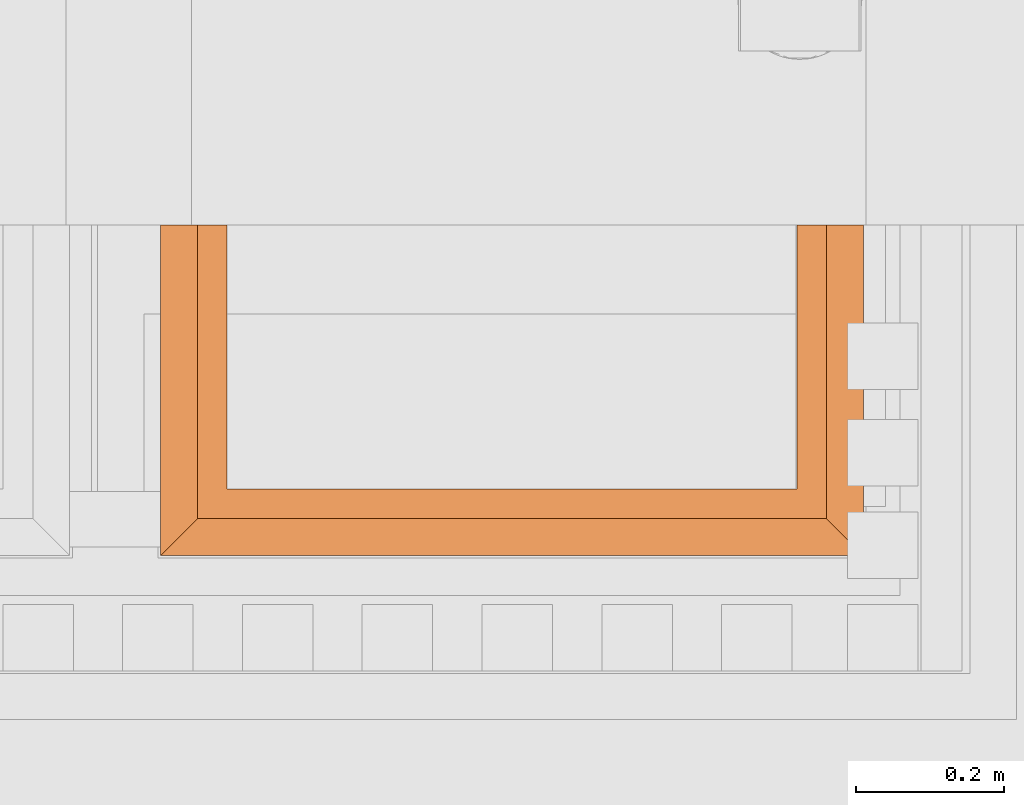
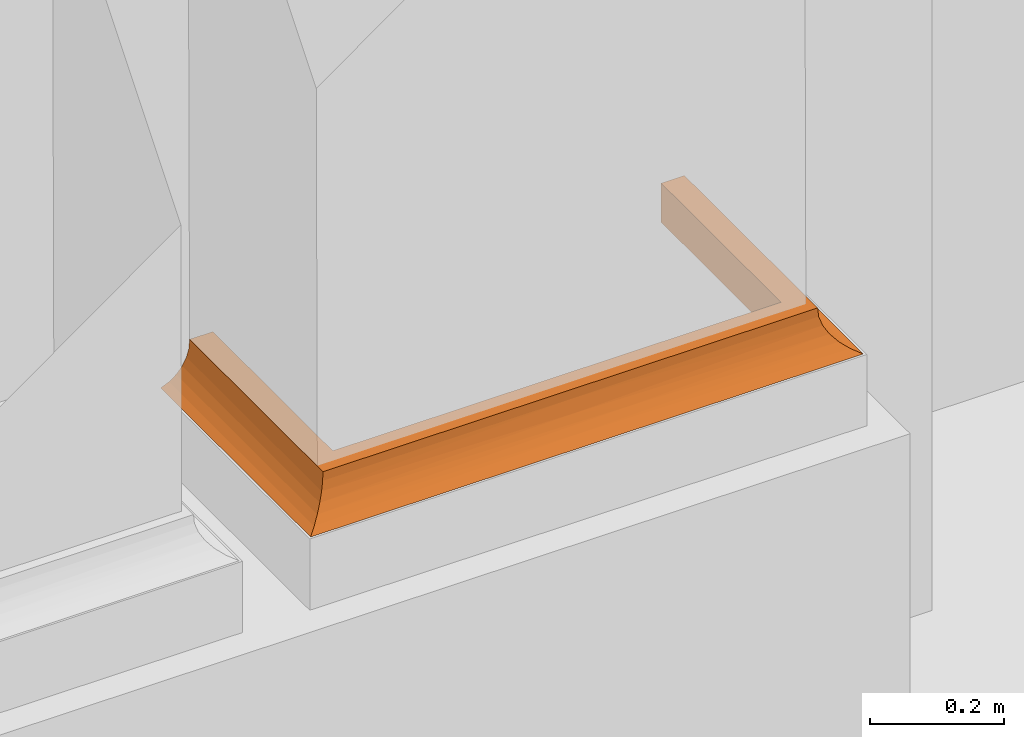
# One storey, part 35 of 44: 1 proxy.
"""IFC2X3 building model written with IfcOpenShell, lengths in metres."""

import ifcopenshell
import ifcopenshell.guid

model = None  # the IFC model being written
_history = None  # IfcOwnerHistory: only IFC2X3 demands one
_inside = {}  # id of a spatial element -> (the spatial element, [elements in it])
_under = {}  # id of a project, library or spatial element -> (it, [spatial elements below it])
_declared = {}  # id of a project -> (the project, [libraries it declares])
_typed = {}  # id of a type object -> (the type object, [elements of that type])
_made_of = {}  # id of a material, layer set ... -> (it, [elements and type objects made of it])


def new_model(schema):
    """Start an empty IFC model of exactly this schema.

    Asked for "IFC4X3", IfcOpenShell would pick the latest addendum, in which some entities
    have other attributes; the version numbers below select the first issue.
    IFC2X3 requires an IfcOwnerHistory on every rooted entity: one is made here for all.
    """
    global model, _history
    if schema == "IFC4X3":
        model = ifcopenshell.file(schema_version=(4, 3, 0, 0))
    else:
        model = ifcopenshell.file(schema=schema)
    _inside.clear()
    _under.clear()
    _declared.clear()
    _typed.clear()
    _made_of.clear()
    _history = None
    if model.schema == "IFC2X3":
        org = make("IfcOrganization", Name="unknown")
        user = make(
            "IfcPersonAndOrganization",
            ThePerson=make("IfcPerson", FamilyName="unknown"),
            TheOrganization=org,
        )
        app = make(
            "IfcApplication",
            ApplicationDeveloper=org,
            Version="unknown",
            ApplicationFullName="unknown",
            ApplicationIdentifier="unknown",
        )
        _history = make(
            "IfcOwnerHistory",
            OwningUser=user,
            OwningApplication=app,
            ChangeAction="ADDED",
            CreationDate=0,
        )
    return model


def make(cls, **values):
    """One entity of the class cls with the attributes given. An attribute that is None is left unset."""
    return model.create_entity(
        cls, **{name: value for name, value in values.items() if value is not None}
    )


def entity(cls, *values):
    """Any entity or typed value of the class cls, its attributes in the order of the schema. None: left unset."""
    e = model.create_entity(cls)
    for i, value in enumerate(values):
        if value is not None:
            e[i] = value
    return e


def rooted(cls, **values):
    """An entity with a GlobalId (a new one), such as an element, a storey or a relation."""
    return make(cls, GlobalId=ifcopenshell.guid.new(), OwnerHistory=_history, **values)


def si_unit(unit_type, name, prefix=None):
    """IfcSIUnit, for example si_unit("LENGTHUNIT", "METRE", prefix="MILLI")."""
    return make("IfcSIUnit", UnitType=unit_type, Prefix=prefix, Name=name)


def converted_unit(unit_type, name, factor, base, dimensions=None, offset=None):
    """IfcConversionBasedUnit, such as the inch: factor (a typed value) times the base unit."""
    return make(
        "IfcConversionBasedUnit"
        if offset is None
        else "IfcConversionBasedUnitWithOffset",
        ConversionOffset=offset,
        Dimensions=None
        if dimensions is None
        else entity("IfcDimensionalExponents", *dimensions),
        UnitType=unit_type,
        Name=name,
        ConversionFactor=make(
            "IfcMeasureWithUnit", ValueComponent=factor, UnitComponent=base
        ),
    )


def derived_unit(unit_type, elements):
    """IfcDerivedUnit: a product of units, each with its exponent."""
    return make(
        "IfcDerivedUnit",
        Elements=[
            make("IfcDerivedUnitElement", Unit=unit, Exponent=power)
            for unit, power in elements
        ],
        UnitType=unit_type,
    )


def assignment(units):
    """IfcUnitAssignment: the units of a project."""
    return None if units is None else make("IfcUnitAssignment", Units=units)


def point(xyz):
    """IfcCartesianPoint."""
    return None if xyz is None else make("IfcCartesianPoint", Coordinates=xyz)


def direction(xyz):
    """IfcDirection."""
    return None if xyz is None else make("IfcDirection", DirectionRatios=xyz)


def frame(location, z_axis=None, x_axis=None):
    """IfcAxis2Placement3D, a coordinate frame: its origin and axes. An axis left out is left unset."""
    return make(
        "IfcAxis2Placement3D",
        Location=point(location),
        Axis=direction(z_axis),
        RefDirection=direction(x_axis),
    )


def origin():
    """The frame at (0, 0, 0) with its axes left unset."""
    return frame((0.0, 0.0, 0.0))


def place(relative_to, where):
    """IfcLocalPlacement: puts the frame where relative to a parent placement (None: the world)."""
    return make(
        "IfcLocalPlacement", PlacementRelTo=relative_to, RelativePlacement=where
    )


def context(
    kind, dimensions, precision=None, world=None, true_north=None, identifier=None
):
    """IfcGeometricRepresentationContext, for example the 3D "Model" context."""
    return make(
        "IfcGeometricRepresentationContext",
        ContextIdentifier=identifier,
        ContextType=kind,
        CoordinateSpaceDimension=dimensions,
        Precision=precision,
        WorldCoordinateSystem=world,
        TrueNorth=true_north,
    )


def subcontext(parent, identifier, kind, view, scale=None):
    """IfcGeometricRepresentationSubContext, for example "Body" below "Model"."""
    return make(
        "IfcGeometricRepresentationSubContext",
        ContextIdentifier=identifier,
        ContextType=kind,
        ParentContext=parent,
        TargetScale=scale,
        TargetView=view,
    )


def project(units=None, contexts=None):
    """IfcProject with its units and contexts."""
    return rooted(
        "IfcProject",
        Name="project",
        RepresentationContexts=contexts,
        UnitsInContext=assignment(units),
    )


def spatial(cls, under=None, at=None, **own):
    """A site, building, storey or space (cls), placed at a placement, below another one or the project."""
    s = rooted(cls, ObjectPlacement=at, **own)
    if under is not None:
        _under.setdefault(under.id(), (under, []))[1].append(s)
    return s


def faces_of(points, faces, orient=None, outer=None):
    """IfcFace entities. A face is a list of loops; a loop is a list of indices into points, from 0.

    orient and outer hold one flag for each loop. By default every Orientation is true, the
    first loop of a face is its IfcFaceOuterBound and the others are IfcFaceBound.
    """
    made = []
    for i, loops in enumerate(faces):
        bounds = []
        for j, loop in enumerate(loops):
            is_outer = j == 0 if outer is None else outer[i][j]
            bounds.append(
                make(
                    "IfcFaceOuterBound" if is_outer else "IfcFaceBound",
                    Bound=make("IfcPolyLoop", Polygon=[points[k] for k in loop]),
                    Orientation=True if orient is None else orient[i][j],
                )
            )
        made.append(make("IfcFace", Bounds=bounds))
    return made


def faceted_brep(points, faces, orient=None, outer=None, voids=None):
    """IfcFacetedBrep: a solid bounded by flat faces; with voids (closed shells), ...WithVoids."""
    shared = [point(p) for p in points]
    hull = make("IfcClosedShell", CfsFaces=faces_of(shared, faces, orient, outer))
    if voids is None:
        return make("IfcFacetedBrep", Outer=hull)
    return make(
        "IfcFacetedBrepWithVoids",
        Outer=hull,
        Voids=[
            make(cls, CfsFaces=faces_of(shared, fs, o, b)) for cls, fs, o, b in voids
        ],
    )


def shape(context_of_items, identifier, shape_type, items):
    """IfcShapeRepresentation: the items that make up one representation, for example the "Body"."""
    return make(
        "IfcShapeRepresentation",
        ContextOfItems=context_of_items,
        RepresentationIdentifier=identifier,
        RepresentationType=shape_type,
        Items=items,
    )


def made_of(thing, what):
    """Note that an element or type object is made of a material, layer set ...; save() writes the relation."""
    if what is not None:
        _made_of.setdefault(what.id(), (what, []))[1].append(thing)
    return thing


def element(
    cls,
    number,
    at=None,
    inside=None,
    cuts=None,
    type_object=None,
    material=None,
    context=None,
    identifier="Body",
    shape_type=None,
    held_by="IfcProductDefinitionShape",
    body=None,
    shapes=None,
    **own,
):
    """One element of the class cls, such as IfcWall. Its Tag is "e" and its number.

    at: its placement. inside: the storey or other place that contains it. cuts: it is an
    opening in that element (IfcRelVoidsElement). A single representation is given by context,
    identifier, shape_type and body (its items); several are given by shapes. held_by: the class
    of the entity that holds the representations. save() writes the other relations.
    """
    e = rooted(cls, Tag="e%d" % number, ObjectPlacement=at, **own)
    if body is not None:
        shapes = [shape(context, identifier, shape_type, body)]
    if shapes is not None:
        e.Representation = make(held_by, Representations=shapes)
    if inside is not None:
        _inside.setdefault(inside.id(), (inside, []))[1].append(e)
    if cuts is not None:
        rooted(
            "IfcRelVoidsElement", RelatingBuildingElement=cuts, RelatedOpeningElement=e
        )
    if type_object is not None:
        _typed.setdefault(type_object.id(), (type_object, []))[1].append(e)
    return made_of(e, material)


def aggregate(whole, parts):
    """IfcRelAggregates: a whole, such as a stair, and the parts it consists of."""
    return rooted("IfcRelAggregates", RelatingObject=whole, RelatedObjects=parts)


def save(model, path):
    """Write the relations noted so far, then the file.

    IfcRelAggregates (storeys below a building ...), IfcRelContainedInSpatialStructure (elements
    in a storey), IfcRelDefinesByType, IfcRelAssociatesMaterial and IfcRelDeclares: one each for
    every whole, place, type object, material and project.
    """
    for whole, parts in _under.values():
        aggregate(whole, parts)
    for where, things in _inside.values():
        rooted(
            "IfcRelContainedInSpatialStructure",
            RelatedElements=things,
            RelatingStructure=where,
        )
    for kind, things in _typed.values():
        rooted("IfcRelDefinesByType", RelatedObjects=things, RelatingType=kind)
    for what, things in _made_of.values():
        rooted("IfcRelAssociatesMaterial", RelatedObjects=things, RelatingMaterial=what)
    for by, libraries in _declared.values():
        rooted("IfcRelDeclares", RelatingContext=by, RelatedDefinitions=libraries)
    model.write(path)


model = new_model("IFC2X3")

# Units and contexts
model_context = context("Model", 3, precision=1e-05, world=origin(), true_north=direction((6.12303176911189e-17, 1.0)))
body_context = subcontext(model_context, "Body", "Model", "MODEL_VIEW")
ifc_project = project(units=[si_unit("LENGTHUNIT", "METRE"), si_unit("AREAUNIT", "SQUARE_METRE"), si_unit("VOLUMEUNIT", "CUBIC_METRE"), converted_unit("PLANEANGLEUNIT", "DEGREE", entity("IfcRatioMeasure", 0.0174532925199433), si_unit("PLANEANGLEUNIT", "RADIAN"), dimensions=[0, 0, 0, 0, 0, 0, 0]), si_unit("MASSUNIT", "GRAM", prefix="KILO"), derived_unit("MASSDENSITYUNIT", [(si_unit("MASSUNIT", "GRAM", prefix="KILO"), 1), (si_unit("LENGTHUNIT", "METRE"), -3)]), si_unit("TIMEUNIT", "SECOND"), si_unit("FREQUENCYUNIT", "HERTZ"), si_unit("THERMODYNAMICTEMPERATUREUNIT", "DEGREE_CELSIUS"), derived_unit("THERMALTRANSMITTANCEUNIT", [(si_unit("MASSUNIT", "GRAM", prefix="KILO"), 1), (si_unit("THERMODYNAMICTEMPERATUREUNIT", "KELVIN"), -1), (si_unit("TIMEUNIT", "SECOND"), -3)]), derived_unit("VOLUMETRICFLOWRATEUNIT", [(si_unit("LENGTHUNIT", "METRE"), 3), (si_unit("TIMEUNIT", "SECOND"), -1)]), si_unit("ELECTRICCURRENTUNIT", "AMPERE"), si_unit("ELECTRICVOLTAGEUNIT", "VOLT"), si_unit("POWERUNIT", "WATT"), si_unit("FORCEUNIT", "NEWTON", prefix="KILO"), si_unit("ILLUMINANCEUNIT", "LUX"), si_unit("LUMINOUSFLUXUNIT", "LUMEN"), si_unit("LUMINOUSINTENSITYUNIT", "CANDELA"), derived_unit("USERDEFINED", [(si_unit("MASSUNIT", "GRAM", prefix="KILO"), -1), (si_unit("LENGTHUNIT", "METRE"), -2), (si_unit("TIMEUNIT", "SECOND"), 3), (si_unit("LUMINOUSFLUXUNIT", "LUMEN"), 1)]), derived_unit("LINEARVELOCITYUNIT", [(si_unit("LENGTHUNIT", "METRE"), 1), (si_unit("TIMEUNIT", "SECOND"), -1)]), si_unit("PRESSUREUNIT", "PASCAL"), derived_unit("USERDEFINED", [(si_unit("LENGTHUNIT", "METRE"), -2), (si_unit("MASSUNIT", "GRAM", prefix="KILO"), 1), (si_unit("TIMEUNIT", "SECOND"), -2)])], contexts=[model_context])

# Site, building, storey
site_placement = place(None, origin())
site = spatial("IfcSite", under=ifc_project, at=site_placement, Name="Default", CompositionType="ELEMENT")
building_placement = place(site_placement, origin())
building = spatial("IfcBuilding", under=site, at=building_placement, CompositionType="ELEMENT")
storey_placement = place(building_placement, origin())
storey = spatial("IfcBuildingStorey", under=building, at=storey_placement, Name="Livello 1", CompositionType="ELEMENT", Elevation=0.0)

# Proxy
proxy_placement = place(storey_placement, frame((3.85395032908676, 0.815415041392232, 14.0944886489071)))
element("IfcBuildingElementProxy", 1, at=proxy_placement, inside=storey, Name="Stratigrafia", context=body_context, shape_type="Brep", body=[
    faceted_brep([(0.860981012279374, 0.447957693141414, 0.0015952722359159), (0.860981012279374, 0.447957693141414, 0.0725246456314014), (0.900981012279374, 0.447957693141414, 0.0725246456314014), (0.90198435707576, 0.447957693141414, 0.057057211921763), (0.906320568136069, 0.447957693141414, 0.0421761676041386), (0.913782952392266, 0.447957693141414, 0.028590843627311), (0.924015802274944, 0.447957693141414, 0.0169488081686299), (0.936531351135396, 0.447957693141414, 0.00780499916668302), (0.950733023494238, 0.447957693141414, 0.0015952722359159), (0.0015952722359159, 0.447957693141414, 0.0015952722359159), (0.0157969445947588, 0.447957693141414, 0.00780499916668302), (0.0283124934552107, 0.447957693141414, 0.0169488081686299), (0.038545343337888, 0.447957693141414, 0.028590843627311), (0.0460077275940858, 0.447957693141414, 0.0421761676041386), (0.0503439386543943, 0.447957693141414, 0.057057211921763), (0.0513472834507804, 0.447957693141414, 0.0725246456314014), (0.0913472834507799, 0.447957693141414, 0.0725246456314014), (0.0913472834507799, 0.447957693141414, 0.0015952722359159), (0.90198435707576, 0.0503439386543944, 0.057057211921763), (0.906320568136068, 0.0460077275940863, 0.0421761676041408), (0.913782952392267, 0.0385453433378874, 0.028590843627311), (0.900981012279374, 0.0513472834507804, 0.0725246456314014), (0.924015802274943, 0.0283124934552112, 0.0169488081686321), (0.936531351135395, 0.0157969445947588, 0.00780499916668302), (0.950733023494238, 0.00159527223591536, 0.0015952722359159), (0.590003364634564, 0.00159527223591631, 0.0015952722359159), (0.0015952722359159, 0.00159527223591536, 0.0015952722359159), (0.0913472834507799, 0.0913472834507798, 0.0015952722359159), (0.860981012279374, 0.0913472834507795, 0.0015952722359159), (0.860981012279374, 0.0913472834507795, 0.0725246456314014), (0.0513472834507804, 0.0513472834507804, 0.0725246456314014), (0.312572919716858, 0.0513472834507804, 0.0725246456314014), (0.0913472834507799, 0.0913472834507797, 0.0725246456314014), (0.572423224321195, 0.0334274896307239, 0.0221280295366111), (0.0157969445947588, 0.0157969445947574, 0.00780499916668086), (0.476164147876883, 0.0424788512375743, 0.0348723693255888), (0.0503439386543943, 0.0503439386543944, 0.057057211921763), (0.476164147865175, 0.0502370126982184, 0.0564642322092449), (0.476164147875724, 0.0218065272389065, 0.0116734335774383), (0.0460077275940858, 0.0460077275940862, 0.0421761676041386), (0.0283124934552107, 0.0283124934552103, 0.0169488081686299), (0.038545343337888, 0.0385453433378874, 0.028590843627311)], [[[0, 1, 2, 3, 4, 5, 6, 7, 8]], [[9, 10, 11, 12, 13, 14, 15, 16, 17]], [[4, 3, 18, 19]], [[5, 4, 19, 20]], [[21, 18, 3, 2]], [[7, 6, 22, 23]], [[8, 7, 23, 24]], [[6, 5, 20, 22]], [[0, 8, 24, 25, 26, 9, 17, 27, 28]], [[1, 0, 28, 29]], [[16, 15, 30, 31, 21, 2, 1, 29, 32]], [[33, 22, 20]], [[25, 34, 26]], [[23, 25, 24]], [[19, 35, 20]], [[31, 36, 37]], [[31, 37, 21]], [[23, 38, 25]], [[18, 21, 37]], [[39, 37, 36]], [[38, 40, 34]], [[18, 37, 19]], [[37, 35, 19]], [[35, 37, 39]], [[35, 33, 20]], [[38, 34, 25]], [[36, 31, 30]], [[41, 40, 33]], [[38, 33, 40]], [[41, 33, 35]], [[38, 23, 22]], [[35, 39, 41]], [[38, 22, 33]], [[29, 28, 27, 32]], [[12, 41, 39, 13]], [[13, 39, 36, 14]], [[14, 36, 30, 15]], [[9, 26, 34, 10]], [[10, 34, 40, 11]], [[12, 11, 40, 41]], [[32, 27, 17, 16]]]),
])

save(model, "model.ifc")
